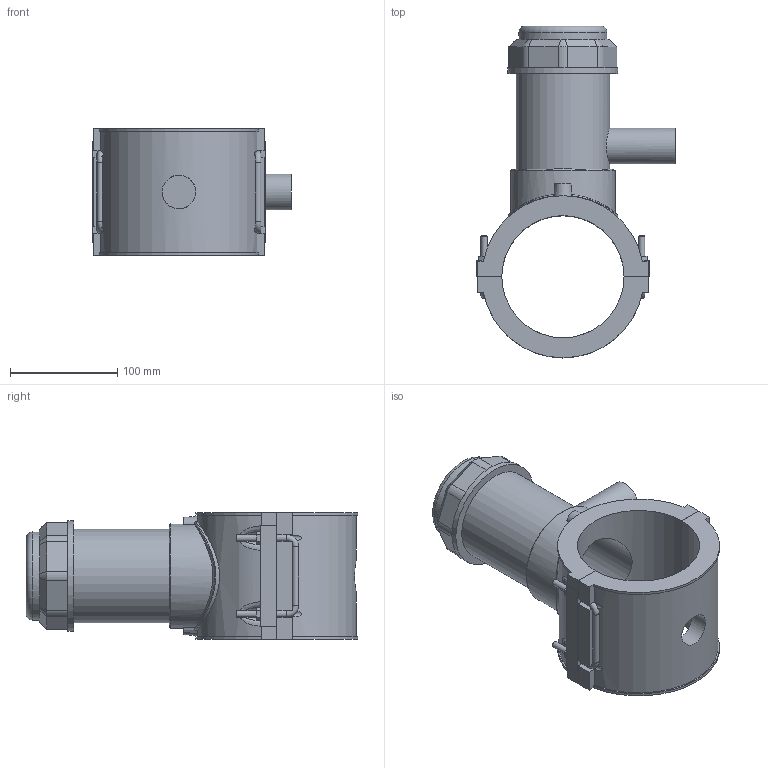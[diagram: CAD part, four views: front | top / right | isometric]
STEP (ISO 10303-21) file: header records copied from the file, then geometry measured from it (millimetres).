
FILE_DESCRIPTION(/* description */ ('PLASSON TAPPING SADDLE 4''''IPS x 1''''IPS'),/* implementation_level */ '2;1');
FILE_NAME(/* name */ 'C:\Dropbox\KIMPROJECTS-Inventor 2019\99-16-3568-Processing Inch\ASTM ElectroFusion 2021\5963B\5963BB03040010.ipt.stp',/* time_stamp */ '2021-08-30T09:55:21+03:00',/* author */ ('KIM'),/* organization */ (''),/* preprocessor_version */ 'ST-DEVELOPER v17.2',/* originating_system */ 'Autodesk Inventor 2019',/* authorisation */ '');
FILE_SCHEMA (('AUTOMOTIVE_DESIGN { 1 0 10303 214 3 1 1 }'));
Length unit declared in the file: millimetre
Products named in the file (1): 5963BB03040010
Bounding box: 185.4 x 309.74 x 118.11 mm (x, y, z)
Volume: 1397480.7 mm3; surface area: 227162 mm2
Topology: 1 solids, 1 shells, 216 faces, 587 edges, 384 vertices
Faces by surface type: plane 126, cylinder 60, cone 15, torus 9, bspline 6
Full cylindrical faces by diameter (mm): 6 x7, 26.64 x1, 31.36 x1, 33.3 x1, 71.883 x1, 82.152 x1, 87.287 x1, 97.555 x1, 102.69 x1
Entity records: 8634 total; most frequent: CARTESIAN_POINT 3096, ORIENTED_EDGE 1196, DIRECTION 1093, EDGE_CURVE 598, VERTEX_POINT 384, AXIS2_PLACEMENT_3D 377, LINE 339, VECTOR 339
